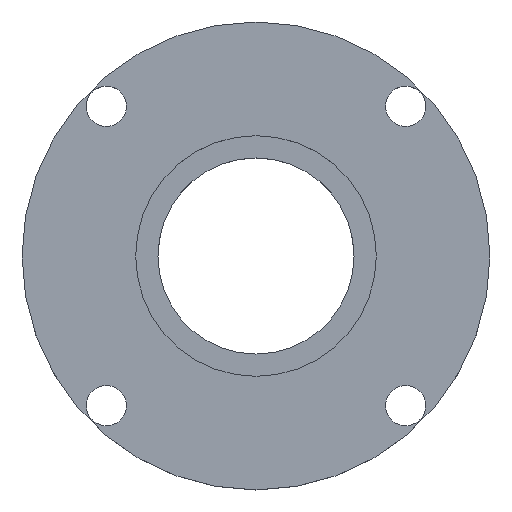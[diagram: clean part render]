
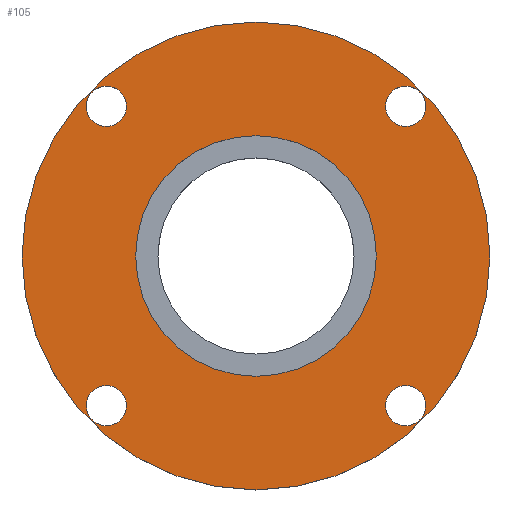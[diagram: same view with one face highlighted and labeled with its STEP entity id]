
A CAD part, top view. The second image highlights one B-rep face of the part: STEP entity #105.
In plain terms, the highlighted planar face has unit normal (0, 0, 1).
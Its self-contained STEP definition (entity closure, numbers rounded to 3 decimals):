
#21 = EDGE_CURVE('',#22,#22,#24,.T.);
#22 = VERTEX_POINT('',#23);
#23 = CARTESIAN_POINT('',(52.5,0.,10.));
#24 = SURFACE_CURVE('',#25,(#30,#42),.PCURVE_S1.);
#25 = CIRCLE('',#26,52.5);
#26 = AXIS2_PLACEMENT_3D('',#27,#28,#29);
#27 = CARTESIAN_POINT('',(0.,0.,10.));
#28 = DIRECTION('',(0.,0.,1.));
#29 = DIRECTION('',(1.,0.,-0.));
#30 = PCURVE('',#31,#36);
#31 = CYLINDRICAL_SURFACE('',#32,52.5);
#32 = AXIS2_PLACEMENT_3D('',#33,#34,#35);
#33 = CARTESIAN_POINT('',(0.,0.,0.));
#34 = DIRECTION('',(0.,0.,1.));
#35 = DIRECTION('',(1.,0.,-0.));
#36 = DEFINITIONAL_REPRESENTATION('',(#37),#41);
#37 = LINE('',#38,#39);
#38 = CARTESIAN_POINT('',(0.,10.));
#39 = VECTOR('',#40,1.);
#40 = DIRECTION('',(1.,0.));
#41 = ( GEOMETRIC_REPRESENTATION_CONTEXT(2) 
PARAMETRIC_REPRESENTATION_CONTEXT() REPRESENTATION_CONTEXT('2D SPACE',''
  ) );
#42 = PCURVE('',#43,#48);
#43 = PLANE('',#44);
#44 = AXIS2_PLACEMENT_3D('',#45,#46,#47);
#45 = CARTESIAN_POINT('',(0.,0.,10.));
#46 = DIRECTION('',(0.,0.,1.));
#47 = DIRECTION('',(1.,0.,-0.));
#48 = DEFINITIONAL_REPRESENTATION('',(#49),#53);
#49 = CIRCLE('',#50,52.5);
#50 = AXIS2_PLACEMENT_2D('',#51,#52);
#51 = CARTESIAN_POINT('',(0.,0.));
#52 = DIRECTION('',(1.,0.));
#53 = ( GEOMETRIC_REPRESENTATION_CONTEXT(2) 
PARAMETRIC_REPRESENTATION_CONTEXT() REPRESENTATION_CONTEXT('2D SPACE',''
  ) );
#105 = ADVANCED_FACE('',(#106,#109,#140,#171,#202,#233),#43,.T.);
#106 = FACE_BOUND('',#107,.T.);
#107 = EDGE_LOOP('',(#108));
#108 = ORIENTED_EDGE('',*,*,#21,.T.);
#109 = FACE_BOUND('',#110,.T.);
#110 = EDGE_LOOP('',(#111));
#111 = ORIENTED_EDGE('',*,*,#112,.F.);
#112 = EDGE_CURVE('',#113,#113,#115,.T.);
#113 = VERTEX_POINT('',#114);
#114 = CARTESIAN_POINT('',(-29.088,-33.588,10.));
#115 = SURFACE_CURVE('',#116,(#121,#128),.PCURVE_S1.);
#116 = CIRCLE('',#117,4.5);
#117 = AXIS2_PLACEMENT_3D('',#118,#119,#120);
#118 = CARTESIAN_POINT('',(-33.588,-33.588,10.));
#119 = DIRECTION('',(0.,0.,1.));
#120 = DIRECTION('',(1.,0.,-0.));
#121 = PCURVE('',#43,#122);
#122 = DEFINITIONAL_REPRESENTATION('',(#123),#127);
#123 = CIRCLE('',#124,4.5);
#124 = AXIS2_PLACEMENT_2D('',#125,#126);
#125 = CARTESIAN_POINT('',(-33.588,-33.588));
#126 = DIRECTION('',(1.,0.));
#127 = ( GEOMETRIC_REPRESENTATION_CONTEXT(2) 
PARAMETRIC_REPRESENTATION_CONTEXT() REPRESENTATION_CONTEXT('2D SPACE',''
  ) );
#128 = PCURVE('',#129,#134);
#129 = CYLINDRICAL_SURFACE('',#130,4.5);
#130 = AXIS2_PLACEMENT_3D('',#131,#132,#133);
#131 = CARTESIAN_POINT('',(-33.588,-33.588,-15.));
#132 = DIRECTION('',(0.,0.,1.));
#133 = DIRECTION('',(1.,0.,-0.));
#134 = DEFINITIONAL_REPRESENTATION('',(#135),#139);
#135 = LINE('',#136,#137);
#136 = CARTESIAN_POINT('',(0.,25.));
#137 = VECTOR('',#138,1.);
#138 = DIRECTION('',(1.,0.));
#139 = ( GEOMETRIC_REPRESENTATION_CONTEXT(2) 
PARAMETRIC_REPRESENTATION_CONTEXT() REPRESENTATION_CONTEXT('2D SPACE',''
  ) );
#140 = FACE_BOUND('',#141,.T.);
#141 = EDGE_LOOP('',(#142));
#142 = ORIENTED_EDGE('',*,*,#143,.F.);
#143 = EDGE_CURVE('',#144,#144,#146,.T.);
#144 = VERTEX_POINT('',#145);
#145 = CARTESIAN_POINT('',(38.088,-33.588,10.));
#146 = SURFACE_CURVE('',#147,(#152,#159),.PCURVE_S1.);
#147 = CIRCLE('',#148,4.5);
#148 = AXIS2_PLACEMENT_3D('',#149,#150,#151);
#149 = CARTESIAN_POINT('',(33.588,-33.588,10.));
#150 = DIRECTION('',(0.,0.,1.));
#151 = DIRECTION('',(1.,0.,-0.));
#152 = PCURVE('',#43,#153);
#153 = DEFINITIONAL_REPRESENTATION('',(#154),#158);
#154 = CIRCLE('',#155,4.5);
#155 = AXIS2_PLACEMENT_2D('',#156,#157);
#156 = CARTESIAN_POINT('',(33.588,-33.588));
#157 = DIRECTION('',(1.,0.));
#158 = ( GEOMETRIC_REPRESENTATION_CONTEXT(2) 
PARAMETRIC_REPRESENTATION_CONTEXT() REPRESENTATION_CONTEXT('2D SPACE',''
  ) );
#159 = PCURVE('',#160,#165);
#160 = CYLINDRICAL_SURFACE('',#161,4.5);
#161 = AXIS2_PLACEMENT_3D('',#162,#163,#164);
#162 = CARTESIAN_POINT('',(33.588,-33.588,-15.));
#163 = DIRECTION('',(0.,0.,1.));
#164 = DIRECTION('',(1.,0.,-0.));
#165 = DEFINITIONAL_REPRESENTATION('',(#166),#170);
#166 = LINE('',#167,#168);
#167 = CARTESIAN_POINT('',(0.,25.));
#168 = VECTOR('',#169,1.);
#169 = DIRECTION('',(1.,0.));
#170 = ( GEOMETRIC_REPRESENTATION_CONTEXT(2) 
PARAMETRIC_REPRESENTATION_CONTEXT() REPRESENTATION_CONTEXT('2D SPACE',''
  ) );
#171 = FACE_BOUND('',#172,.T.);
#172 = EDGE_LOOP('',(#173));
#173 = ORIENTED_EDGE('',*,*,#174,.F.);
#174 = EDGE_CURVE('',#175,#175,#177,.T.);
#175 = VERTEX_POINT('',#176);
#176 = CARTESIAN_POINT('',(-29.088,33.588,10.));
#177 = SURFACE_CURVE('',#178,(#183,#190),.PCURVE_S1.);
#178 = CIRCLE('',#179,4.5);
#179 = AXIS2_PLACEMENT_3D('',#180,#181,#182);
#180 = CARTESIAN_POINT('',(-33.588,33.588,10.));
#181 = DIRECTION('',(0.,0.,1.));
#182 = DIRECTION('',(1.,0.,-0.));
#183 = PCURVE('',#43,#184);
#184 = DEFINITIONAL_REPRESENTATION('',(#185),#189);
#185 = CIRCLE('',#186,4.5);
#186 = AXIS2_PLACEMENT_2D('',#187,#188);
#187 = CARTESIAN_POINT('',(-33.588,33.588));
#188 = DIRECTION('',(1.,0.));
#189 = ( GEOMETRIC_REPRESENTATION_CONTEXT(2) 
PARAMETRIC_REPRESENTATION_CONTEXT() REPRESENTATION_CONTEXT('2D SPACE',''
  ) );
#190 = PCURVE('',#191,#196);
#191 = CYLINDRICAL_SURFACE('',#192,4.5);
#192 = AXIS2_PLACEMENT_3D('',#193,#194,#195);
#193 = CARTESIAN_POINT('',(-33.588,33.588,-15.));
#194 = DIRECTION('',(0.,0.,1.));
#195 = DIRECTION('',(1.,0.,-0.));
#196 = DEFINITIONAL_REPRESENTATION('',(#197),#201);
#197 = LINE('',#198,#199);
#198 = CARTESIAN_POINT('',(0.,25.));
#199 = VECTOR('',#200,1.);
#200 = DIRECTION('',(1.,0.));
#201 = ( GEOMETRIC_REPRESENTATION_CONTEXT(2) 
PARAMETRIC_REPRESENTATION_CONTEXT() REPRESENTATION_CONTEXT('2D SPACE',''
  ) );
#202 = FACE_BOUND('',#203,.T.);
#203 = EDGE_LOOP('',(#204));
#204 = ORIENTED_EDGE('',*,*,#205,.F.);
#205 = EDGE_CURVE('',#206,#206,#208,.T.);
#206 = VERTEX_POINT('',#207);
#207 = CARTESIAN_POINT('',(27.,0.,10.));
#208 = SURFACE_CURVE('',#209,(#214,#221),.PCURVE_S1.);
#209 = CIRCLE('',#210,27.);
#210 = AXIS2_PLACEMENT_3D('',#211,#212,#213);
#211 = CARTESIAN_POINT('',(0.,0.,10.));
#212 = DIRECTION('',(0.,0.,1.));
#213 = DIRECTION('',(1.,0.,-0.));
#214 = PCURVE('',#43,#215);
#215 = DEFINITIONAL_REPRESENTATION('',(#216),#220);
#216 = CIRCLE('',#217,27.);
#217 = AXIS2_PLACEMENT_2D('',#218,#219);
#218 = CARTESIAN_POINT('',(0.,0.));
#219 = DIRECTION('',(1.,0.));
#220 = ( GEOMETRIC_REPRESENTATION_CONTEXT(2) 
PARAMETRIC_REPRESENTATION_CONTEXT() REPRESENTATION_CONTEXT('2D SPACE',''
  ) );
#221 = PCURVE('',#222,#227);
#222 = CYLINDRICAL_SURFACE('',#223,27.);
#223 = AXIS2_PLACEMENT_3D('',#224,#225,#226);
#224 = CARTESIAN_POINT('',(0.,0.,4.));
#225 = DIRECTION('',(0.,0.,1.));
#226 = DIRECTION('',(1.,0.,-0.));
#227 = DEFINITIONAL_REPRESENTATION('',(#228),#232);
#228 = LINE('',#229,#230);
#229 = CARTESIAN_POINT('',(0.,6.));
#230 = VECTOR('',#231,1.);
#231 = DIRECTION('',(1.,0.));
#232 = ( GEOMETRIC_REPRESENTATION_CONTEXT(2) 
PARAMETRIC_REPRESENTATION_CONTEXT() REPRESENTATION_CONTEXT('2D SPACE',''
  ) );
#233 = FACE_BOUND('',#234,.T.);
#234 = EDGE_LOOP('',(#235));
#235 = ORIENTED_EDGE('',*,*,#236,.F.);
#236 = EDGE_CURVE('',#237,#237,#239,.T.);
#237 = VERTEX_POINT('',#238);
#238 = CARTESIAN_POINT('',(38.088,33.588,10.));
#239 = SURFACE_CURVE('',#240,(#245,#252),.PCURVE_S1.);
#240 = CIRCLE('',#241,4.5);
#241 = AXIS2_PLACEMENT_3D('',#242,#243,#244);
#242 = CARTESIAN_POINT('',(33.588,33.588,10.));
#243 = DIRECTION('',(0.,0.,1.));
#244 = DIRECTION('',(1.,0.,-0.));
#245 = PCURVE('',#43,#246);
#246 = DEFINITIONAL_REPRESENTATION('',(#247),#251);
#247 = CIRCLE('',#248,4.5);
#248 = AXIS2_PLACEMENT_2D('',#249,#250);
#249 = CARTESIAN_POINT('',(33.588,33.588));
#250 = DIRECTION('',(1.,0.));
#251 = ( GEOMETRIC_REPRESENTATION_CONTEXT(2) 
PARAMETRIC_REPRESENTATION_CONTEXT() REPRESENTATION_CONTEXT('2D SPACE',''
  ) );
#252 = PCURVE('',#253,#258);
#253 = CYLINDRICAL_SURFACE('',#254,4.5);
#254 = AXIS2_PLACEMENT_3D('',#255,#256,#257);
#255 = CARTESIAN_POINT('',(33.588,33.588,-15.));
#256 = DIRECTION('',(0.,0.,1.));
#257 = DIRECTION('',(1.,0.,-0.));
#258 = DEFINITIONAL_REPRESENTATION('',(#259),#263);
#259 = LINE('',#260,#261);
#260 = CARTESIAN_POINT('',(0.,25.));
#261 = VECTOR('',#262,1.);
#262 = DIRECTION('',(1.,0.));
#263 = ( GEOMETRIC_REPRESENTATION_CONTEXT(2) 
PARAMETRIC_REPRESENTATION_CONTEXT() REPRESENTATION_CONTEXT('2D SPACE',''
  ) );
